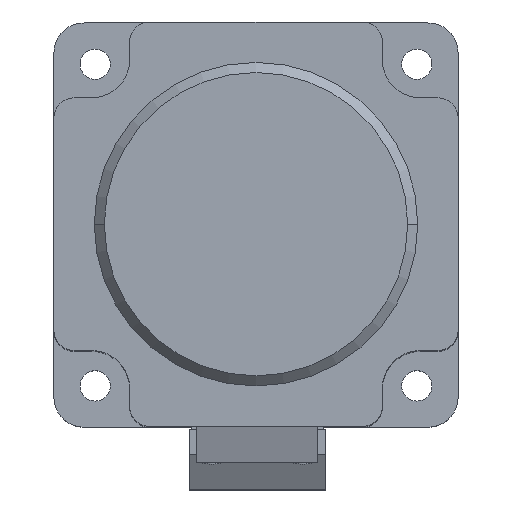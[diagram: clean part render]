
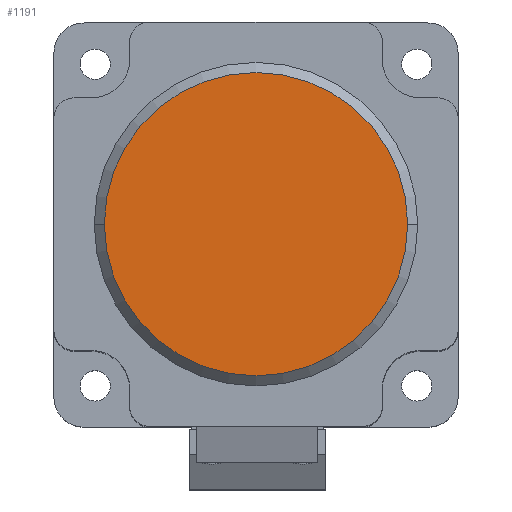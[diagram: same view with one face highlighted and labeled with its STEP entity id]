
A CAD part, top view. The second image highlights one B-rep face of the part: STEP entity #1191.
In plain terms, the highlighted planar face has unit normal (0, 0, 1).
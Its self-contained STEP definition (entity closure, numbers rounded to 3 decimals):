
#122 = DIRECTION ( 'NONE',  ( 1., 0., 0. ) ) ;
#449 = ORIENTED_EDGE ( 'NONE', *, *, #1115, .T. ) ;
#468 = ORIENTED_EDGE ( 'NONE', *, *, #2202, .T. ) ;
#506 = DIRECTION ( 'NONE',  ( 0., 0., 1. ) ) ;
#693 = AXIS2_PLACEMENT_3D ( 'NONE', #4433, #2690, #5305 ) ;
#821 = DIRECTION ( 'NONE',  ( 1., 0., 0. ) ) ;
#864 = CARTESIAN_POINT ( 'NONE',  ( 0., 0., 105. ) ) ;
#1115 = EDGE_CURVE ( 'NONE', #5022, #2805, #5527, .T. ) ;
#1191 = ADVANCED_FACE ( 'NONE', ( #4063 ), #3701, .T. ) ;
#1323 = CARTESIAN_POINT ( 'NONE',  ( -30., 0., 105. ) ) ;
#1364 = EDGE_LOOP ( 'NONE', ( #449, #468 ) ) ;
#2202 = EDGE_CURVE ( 'NONE', #2805, #5022, #4270, .T. ) ;
#2690 = DIRECTION ( 'NONE',  ( 0., 0., 1. ) ) ;
#2778 = CARTESIAN_POINT ( 'NONE',  ( 30., 0., 105. ) ) ;
#2805 = VERTEX_POINT ( 'NONE', #1323 ) ;
#3283 = AXIS2_PLACEMENT_3D ( 'NONE', #4977, #506, #122 ) ;
#3701 = PLANE ( 'NONE',  #3283 ) ;
#3977 = DIRECTION ( 'NONE',  ( 0., 0., 1. ) ) ;
#4063 = FACE_OUTER_BOUND ( 'NONE', #1364, .T. ) ;
#4253 = AXIS2_PLACEMENT_3D ( 'NONE', #864, #3977, #821 ) ;
#4270 = CIRCLE ( 'NONE', #4253, 30. ) ;
#4433 = CARTESIAN_POINT ( 'NONE',  ( 0., 0., 105. ) ) ;
#4977 = CARTESIAN_POINT ( 'NONE',  ( 0., 0., 105. ) ) ;
#5022 = VERTEX_POINT ( 'NONE', #2778 ) ;
#5305 = DIRECTION ( 'NONE',  ( 1., 0., 0. ) ) ;
#5527 = CIRCLE ( 'NONE', #693, 30. ) ;
